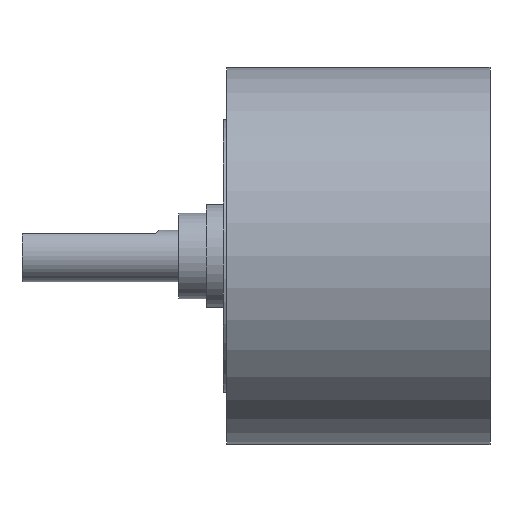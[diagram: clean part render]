
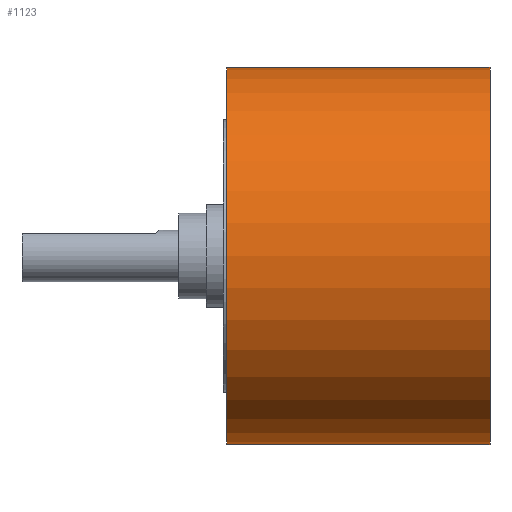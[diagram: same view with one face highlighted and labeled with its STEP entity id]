
A CAD part, top view. The second image highlights one B-rep face of the part: STEP entity #1123.
In plain terms, the highlighted cylindrical face has radius 11 mm (diameter 22 mm), a partial arc.
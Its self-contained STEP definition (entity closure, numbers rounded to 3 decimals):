
#6=CARTESIAN_POINT('',(0.2,0.,0.));
#7=DIRECTION('',(1.,0.,0.));
#8=DIRECTION('',(0.,1.,0.));
#9=AXIS2_PLACEMENT_3D('',#6,#7,#8);
#365=DIRECTION('',(-1.,0.,0.));
#366=VECTOR('',#365,15.35);
#367=CARTESIAN_POINT('',(15.55,11.,0.));
#368=LINE('',#367,#366);
#369=DIRECTION('',(-1.,0.,0.));
#370=VECTOR('',#369,15.35);
#371=CARTESIAN_POINT('',(15.55,-11.,0.));
#372=LINE('',#371,#370);
#378=CARTESIAN_POINT('',(15.55,0.,0.));
#379=DIRECTION('',(1.,0.,0.));
#380=DIRECTION('',(0.,1.,0.));
#381=AXIS2_PLACEMENT_3D('',#378,#379,#380);
#419=CARTESIAN_POINT('',(15.55,11.,0.));
#420=CARTESIAN_POINT('',(0.2,11.,0.));
#421=VERTEX_POINT('',#419);
#422=VERTEX_POINT('',#420);
#435=CARTESIAN_POINT('',(15.55,-11.,0.));
#436=CARTESIAN_POINT('',(0.2,-11.,0.));
#437=VERTEX_POINT('',#435);
#438=VERTEX_POINT('',#436);
#1111=CARTESIAN_POINT('',(-11.75,0.,0.));
#1112=DIRECTION('',(1.,0.,0.));
#1113=DIRECTION('',(0.,-1.,0.));
#1114=AXIS2_PLACEMENT_3D('',#1111,#1112,#1113);
#1115=CYLINDRICAL_SURFACE('',#1114,11.);
#1116=ORIENTED_EDGE('',*,*,#1101,.F.);
#1118=ORIENTED_EDGE('',*,*,#1117,.T.);
#1119=ORIENTED_EDGE('',*,*,#1104,.T.);
#1120=ORIENTED_EDGE('',*,*,#533,.F.);
#1121=EDGE_LOOP('',(#1116,#1118,#1119,#1120));
#1122=FACE_OUTER_BOUND('',#1121,.F.);
#1123=ADVANCED_FACE('',(#1122),#1115,.T.);
#10=CIRCLE('',#9,11.);
#382=CIRCLE('',#381,11.);
#533=EDGE_CURVE('',#422,#438,#10,.T.);
#1101=EDGE_CURVE('',#421,#422,#368,.T.);
#1104=EDGE_CURVE('',#437,#438,#372,.T.);
#1117=EDGE_CURVE('',#421,#437,#382,.T.);
